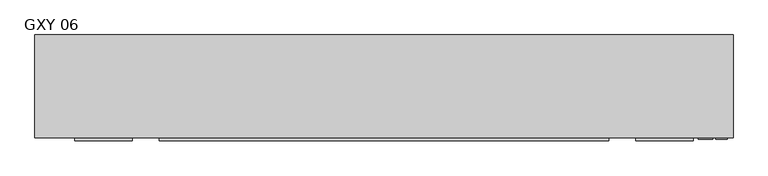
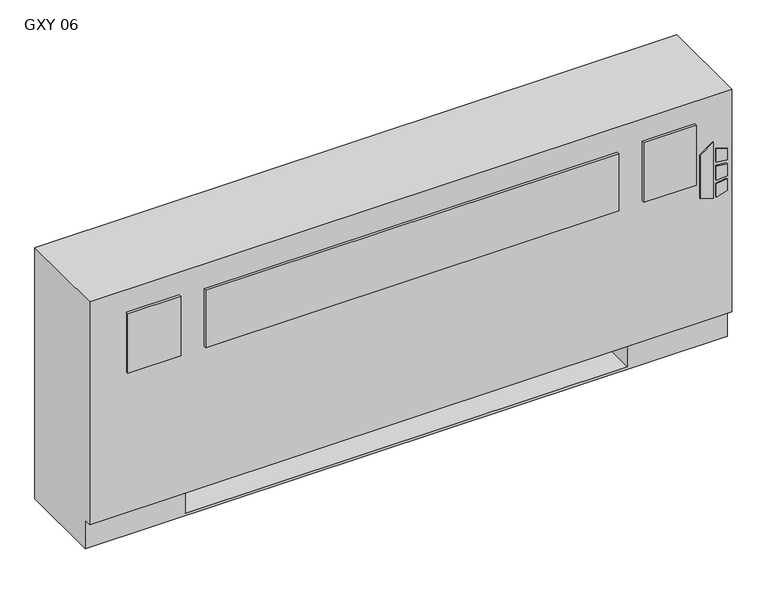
"""IFC4 building model written with IfcOpenShell, lengths in millimetres: proxy geometry, Vertical_Fan_Coil_Unit_-_GXY_-_IEC_-_2-Pipe_FS-FR_RH_2022 : GXY 06."""

from ifc_helpers import new_model, si_unit, point, frame, frame_2d, origin, place, context, project, spatial, polyline, circle_curve, trimmed, segment, composite_curve, outline, extrude, source, transform, mapped, element, save
from ifc_brep_helpers import plane_surface, revolved_surface, advanced_brep


def gxy_06_4bfbfc61(model_context):
    return source(origin(), model_context, "Body", "SolidModel", [
        extrude(outline(polyline([(391.6086829, 849.3868862), (381.6606126, 881.5602728), (523.831537, 881.5602728), (500.8095309, 849.3868862), (391.6086829, 849.3868862)])), frame((0.0, 12.7, 0.0), z_axis=(0.0, 1.0, 0.0), x_axis=(0.0, 0.0, 1.0)), (0.0, 0.0, 1.0), 3.175),
        extrude(outline(polyline([(470.6079683, 888.3186058), (467.4055757, 914.4), (496.6344168, 914.4), (504.6988318, 888.3186058), (470.6079683, 888.3186058)])), frame((0.0, 12.7, 0.0), z_axis=(0.0, 1.0, 0.0), x_axis=(0.0, 0.0, 1.0)), (0.0, 0.0, 1.0), 3.175),
        extrude(outline(polyline([(418.7444414, 914.4), (415.0789404, 888.3186058), (381.6606126, 888.3186058), (390.2948498, 914.4), (418.7444414, 914.4)])), frame((0.0, 12.7, 0.0), z_axis=(0.0, 1.0, 0.0), x_axis=(0.0, 0.0, 1.0)), (0.0, 0.0, 1.0), 3.175),
        extrude(outline(polyline([(458.0596028, 914.4), (460.3414292, 888.3186058), (424.4038806, 888.3186058), (427.1451456, 914.4), (458.0596028, 914.4)])), frame((0.0, 12.7, 0.0), z_axis=(0.0, 1.0, 0.0), x_axis=(0.0, 0.0, 1.0)), (0.0, 0.0, 1.0), 3.175),
        extrude(outline(polyline([(-406.4, 9.525), (-533.4, 9.525), (-533.4, 15.875), (-406.4, 15.875), (-406.4, 9.525)])), frame((0.0, 0.0, 431.8), z_axis=(0.0, 0.0, 1.0), x_axis=(1.0, 0.0, 0.0)), (0.0, 0.0, 1.0), 152.4),
        extrude(outline(polyline([(650.875, 9.525), (-346.075, 9.525), (-346.075, 15.875), (650.875, 15.875), (650.875, 9.525)])), frame((0.0, 0.0, 431.8), z_axis=(0.0, 0.0, 1.0), x_axis=(1.0, 0.0, 0.0)), (0.0, 0.0, 1.0), 146.05),
        extrude(outline(polyline([(838.2, 9.525), (711.2, 9.525), (711.2, 15.875), (838.2, 15.875), (838.2, 9.525)])), frame((0.0, 0.0, 431.8), z_axis=(0.0, 0.0, 1.0), x_axis=(1.0, 0.0, 0.0)), (0.0, 0.0, 1.0), 152.4),
        extrude(outline(polyline([(-501.65, 81.534), (-501.65, 223.266), (-127.0, 223.266), (-127.0, 81.534), (-501.65, 81.534)])), frame((0.0, 0.0, 327.025), z_axis=(0.0, 0.0, 1.0), x_axis=(1.0, 0.0, 0.0)), (0.0, 0.0, 1.0), 260.35),
        extrude(outline(composite_curve([segment(trimmed(circle_curve(frame_2d((78.9432, 398.5514)), 7.9375), [point((78.9432, 406.4889))], [point((78.9432, 390.6139))], False, "CARTESIAN"), True, "CONTINUOUS"), segment(trimmed(circle_curve(frame_2d((78.9432, 398.5514)), 7.9375), [point((78.9432, 390.6139))], [point((78.9432, 406.4889))], False, "CARTESIAN"), True, "CONTINUOUS")], self_intersect=False)), frame((685.8, 0.0, 0.0), z_axis=(1.0, 0.0, 0.0), x_axis=(0.0, 1.0, 0.0)), (0.0, 0.0, 1.0), 50.8),
        extrude(outline(composite_curve([segment(trimmed(circle_curve(frame_2d((155.9052, 537.3878)), 7.9375), [point((155.9052, 545.3253))], [point((155.9052, 529.4503))], False, "CARTESIAN"), True, "CONTINUOUS"), segment(trimmed(circle_curve(frame_2d((155.9052, 537.3878)), 7.9375), [point((155.9052, 529.4503))], [point((155.9052, 545.3253))], False, "CARTESIAN"), True, "CONTINUOUS")], self_intersect=False)), frame((685.8, 0.0, 0.0), z_axis=(1.0, 0.0, 0.0), x_axis=(0.0, 1.0, 0.0)), (0.0, 0.0, 1.0), 50.8),
        advanced_brep(
        [(927.1, 244.475, 641.35), (-622.3, 244.475, 641.35), (-622.3, 15.875, 641.35), (927.1, 15.875, 641.35), (-622.3, 244.475, 0.0), (927.1, 244.475, 0.0), (927.1, 34.925, 0.0), (-622.3, 34.925, 0.0), (685.8, 244.475, 73.025), (914.4, 244.475, 73.025), (914.4, 244.475, 628.65), (685.8, 244.475, 628.65), (685.8, 244.475, 418.0400565), (714.375, 244.475, 418.0400565), (714.375, 244.475, 388.4099435), (685.8, 244.475, 388.4099435), (685.8, 244.475, 290.5125), (714.375, 244.475, 290.5125), (714.375, 244.475, 261.9375), (685.8, 244.475, 261.9375), (685.8, 244.475, 119.0625), (714.375, 244.475, 119.0625), (714.375, 244.475, 90.4875), (685.8, 244.475, 90.4875), (-381.0, 244.475, 628.65), (-609.6, 244.475, 628.65), (-609.6, 244.475, 73.025), (-381.0, 244.475, 73.025), (-381.0, 244.475, 90.4875), (-409.575, 244.475, 90.4875), (-409.575, 244.475, 119.0625), (-381.0, 244.475, 119.0625), (-381.0, 244.475, 261.9375), (-409.575, 244.475, 261.9375), (-409.575, 244.475, 290.5125), (-381.0, 244.475, 290.5125), (-381.0, 244.475, 388.4099435), (-409.575, 244.475, 388.4099435), (-409.575, 244.475, 418.0400565), (-381.0, 244.475, 418.0400565), (704.0626, 244.475, 104.775), (692.9374, 244.475, 104.775), (704.0626, 244.475, 403.225), (692.9374, 244.475, 403.225), (704.0626, 244.475, 276.225), (692.9374, 244.475, 276.225), (-388.1374, 244.475, 104.775), (-399.2626, 244.475, 104.775), (-388.1374, 244.475, 276.225), (-399.2626, 244.475, 276.225), (-388.1374, 244.475, 403.225), (-399.2626, 244.475, 403.225), (-622.3, 34.925, 73.025), (-622.3, 15.875, 73.025), (927.1, 15.875, 73.025), (927.1, 34.925, 73.025), (-381.0, 34.925, 73.025), (-381.0, 219.075, 73.025), (685.8, 219.075, 73.025), (685.8, 34.925, 73.025), (685.8, 34.925, 6.35), (-381.0, 34.925, 6.35), (685.8, 41.275, 628.65), (914.4, 41.275, 628.65), (914.4, 41.275, 73.025), (685.8, 41.275, 73.025), (-381.0, 41.275, 628.65), (-381.0, 41.275, 73.025), (-609.6, 41.275, 73.025), (-609.6, 41.275, 628.65), (685.8, 219.075, 73.025), (685.8, 238.125, 90.4875), (685.8, 238.125, 119.0625), (685.8, 238.125, 261.9375), (685.8, 238.125, 290.5125), (685.8, 238.125, 388.4099435), (685.8, 238.125, 418.0400565), (-381.0, 219.075, 73.025), (-381.0, 238.125, 418.0400565), (-381.0, 238.125, 388.4099435), (-381.0, 238.125, 290.5125), (-381.0, 238.125, 261.9375), (-381.0, 238.125, 119.0625), (-381.0, 238.125, 90.4875), (-381.0, 219.075, 6.35), (685.8, 219.075, 6.35), (714.375, 238.125, 90.4875), (714.375, 238.125, 119.0625), (692.9374, 238.125, 104.775), (704.0626, 238.125, 104.775), (714.375, 238.125, 261.9375), (714.375, 238.125, 290.5125), (692.9374, 238.125, 276.225), (704.0626, 238.125, 276.225), (714.375, 238.125, 388.4099435), (714.375, 238.125, 418.0400565), (692.9374, 238.125, 403.225), (704.0626, 238.125, 403.225), (-409.575, 238.125, 119.0625), (-409.575, 238.125, 90.4875), (-399.2626, 238.125, 104.775), (-388.1374, 238.125, 104.775), (-409.575, 238.125, 290.5125), (-409.575, 238.125, 261.9375), (-399.2626, 238.125, 276.225), (-388.1374, 238.125, 276.225), (-409.575, 238.125, 418.0400565), (-409.575, 238.125, 388.4099435), (-399.2626, 238.125, 403.225), (-388.1374, 238.125, 403.225)],
        [
            (0, 1),
            (1, 2),
            (2, 3),
            (3, 0),
            (4, 5),
            (5, 6),
            (6, 7),
            (7, 4),
            (0, 5),
            (4, 1),
            (8, 9),
            (9, 10),
            (10, 11),
            (11, 12),
            (12, 13),
            (13, 14),
            (14, 15),
            (15, 16),
            (16, 17),
            (17, 18),
            (18, 19),
            (19, 20),
            (20, 21),
            (21, 22),
            (22, 23),
            (23, 8),
            (24, 25),
            (25, 26),
            (26, 27),
            (27, 28),
            (28, 29),
            (29, 30),
            (30, 31),
            (31, 32),
            (32, 33),
            (33, 34),
            (34, 35),
            (35, 36),
            (36, 37),
            (37, 38),
            (38, 39),
            (39, 24),
            (40, 41, circle_curve(frame((698.5, 244.475, 104.775), z_axis=(0.0, -1.0, 0.0), x_axis=(-1.0, 0.0, 0.0)), 5.5626)),
            (41, 40, circle_curve(frame((698.5, 244.475, 104.775), z_axis=(0.0, -1.0, 0.0), x_axis=(-1.0, 0.0, 0.0)), 5.5626)),
            (42, 43, circle_curve(frame((698.5, 244.475, 403.225), z_axis=(0.0, -1.0, 0.0), x_axis=(-1.0, 0.0, 0.0)), 5.5626)),
            (43, 42, circle_curve(frame((698.5, 244.475, 403.225), z_axis=(0.0, -1.0, 0.0), x_axis=(-1.0, 0.0, 0.0)), 5.5626)),
            (44, 45, circle_curve(frame((698.5, 244.475, 276.225), z_axis=(0.0, -1.0, 0.0), x_axis=(-1.0, 0.0, 0.0)), 5.5626)),
            (45, 44, circle_curve(frame((698.5, 244.475, 276.225), z_axis=(0.0, -1.0, 0.0), x_axis=(-1.0, 0.0, 0.0)), 5.5626)),
            (46, 47, circle_curve(frame((-393.7, 244.475, 104.775), z_axis=(0.0, -1.0, 0.0), x_axis=(-1.0, 0.0, 0.0)), 5.5626)),
            (47, 46, circle_curve(frame((-393.7, 244.475, 104.775), z_axis=(0.0, -1.0, 0.0), x_axis=(-1.0, 0.0, 0.0)), 5.5626)),
            (48, 49, circle_curve(frame((-393.7, 244.475, 276.225), z_axis=(0.0, -1.0, 0.0), x_axis=(-1.0, 0.0, 0.0)), 5.5626)),
            (49, 48, circle_curve(frame((-393.7, 244.475, 276.225), z_axis=(0.0, -1.0, 0.0), x_axis=(-1.0, 0.0, 0.0)), 5.5626)),
            (50, 51, circle_curve(frame((-393.7, 244.475, 403.225), z_axis=(0.0, -1.0, 0.0), x_axis=(-1.0, 0.0, 0.0)), 5.5626)),
            (51, 50, circle_curve(frame((-393.7, 244.475, 403.225), z_axis=(0.0, -1.0, 0.0), x_axis=(-1.0, 0.0, 0.0)), 5.5626)),
            (7, 52),
            (52, 53),
            (53, 2),
            (53, 54),
            (54, 3),
            (54, 55),
            (55, 6),
            (52, 56),
            (56, 57),
            (57, 58),
            (58, 59),
            (59, 55),
            (59, 60),
            (60, 61),
            (61, 56),
            (62, 63),
            (63, 64),
            (64, 65),
            (65, 62),
            (66, 67),
            (67, 68),
            (68, 69),
            (69, 66),
            (65, 70),
            (70, 8),
            (23, 71),
            (71, 72),
            (72, 20),
            (19, 73),
            (73, 74),
            (74, 16),
            (15, 75),
            (75, 76),
            (76, 12),
            (11, 62),
            (64, 9),
            (63, 10),
            (69, 25),
            (24, 66),
            (68, 26),
            (67, 77),
            (77, 27),
            (39, 78),
            (78, 79),
            (79, 36),
            (35, 80),
            (80, 81),
            (81, 32),
            (31, 82),
            (82, 83),
            (83, 28),
            (57, 84),
            (84, 85),
            (85, 58),
            (85, 60),
            (84, 61),
            (71, 86),
            (86, 87),
            (87, 72),
            (88, 89, circle_curve(frame((698.5, 238.125, 104.775), z_axis=(0.0, 1.0, 0.0), x_axis=(-1.0, 0.0, 0.0)), 5.5626)),
            (89, 88, circle_curve(frame((698.5, 238.125, 104.775), z_axis=(0.0, 1.0, 0.0), x_axis=(-1.0, 0.0, 0.0)), 5.5626)),
            (73, 90),
            (90, 91),
            (91, 74),
            (92, 93, circle_curve(frame((698.5, 238.125, 276.225), z_axis=(0.0, 1.0, 0.0), x_axis=(-1.0, 0.0, 0.0)), 5.5626)),
            (93, 92, circle_curve(frame((698.5, 238.125, 276.225), z_axis=(0.0, 1.0, 0.0), x_axis=(-1.0, 0.0, 0.0)), 5.5626)),
            (75, 94),
            (94, 95),
            (95, 76),
            (96, 97, circle_curve(frame((698.5, 238.125, 403.225), z_axis=(0.0, 1.0, 0.0), x_axis=(-1.0, 0.0, 0.0)), 5.5626)),
            (97, 96, circle_curve(frame((698.5, 238.125, 403.225), z_axis=(0.0, 1.0, 0.0), x_axis=(-1.0, 0.0, 0.0)), 5.5626)),
            (98, 99),
            (99, 83),
            (82, 98),
            (100, 101, circle_curve(frame((-393.7, 238.125, 104.775), z_axis=(0.0, 1.0, 0.0), x_axis=(-1.0, 0.0, 0.0)), 5.5626)),
            (101, 100, circle_curve(frame((-393.7, 238.125, 104.775), z_axis=(0.0, 1.0, 0.0), x_axis=(-1.0, 0.0, 0.0)), 5.5626)),
            (102, 103),
            (103, 81),
            (80, 102),
            (104, 105, circle_curve(frame((-393.7, 238.125, 276.225), z_axis=(0.0, 1.0, 0.0), x_axis=(-1.0, 0.0, 0.0)), 5.5626)),
            (105, 104, circle_curve(frame((-393.7, 238.125, 276.225), z_axis=(0.0, 1.0, 0.0), x_axis=(-1.0, 0.0, 0.0)), 5.5626)),
            (106, 107),
            (107, 79),
            (78, 106),
            (108, 109, circle_curve(frame((-393.7, 238.125, 403.225), z_axis=(0.0, 1.0, 0.0), x_axis=(-1.0, 0.0, 0.0)), 5.5626)),
            (109, 108, circle_curve(frame((-393.7, 238.125, 403.225), z_axis=(0.0, 1.0, 0.0), x_axis=(-1.0, 0.0, 0.0)), 5.5626)),
            (87, 21),
            (86, 22),
            (91, 17),
            (90, 18),
            (95, 13),
            (94, 14),
            (30, 98),
            (99, 29),
            (34, 102),
            (103, 33),
            (38, 106),
            (107, 37),
            (88, 41),
            (40, 89),
            (96, 43),
            (42, 97),
            (92, 45),
            (44, 93),
            (100, 47),
            (46, 101),
            (104, 49),
            (48, 105),
            (108, 51),
            (50, 109),
        ],
        [
            plane_surface(frame((-622.3, 244.475, 641.35), z_axis=(0.0, 0.0, 1.0), x_axis=(-1.0, 0.0, 0.0))),
            plane_surface(frame((-622.3, 244.475, 0.0), z_axis=(0.0, 0.0, -1.0), x_axis=(1.0, 0.0, 0.0))),
            plane_surface(frame((927.1, 244.475, 641.35), z_axis=(0.0, 1.0, 0.0), x_axis=(0.0, 0.0, -1.0))),
            plane_surface(frame((-622.3, 244.475, 641.35), z_axis=(-1.0, 0.0, 0.0), x_axis=(0.0, 0.0, -1.0))),
            plane_surface(frame((-622.3, 15.875, 641.35), z_axis=(0.0, -1.0, 0.0), x_axis=(0.0, 0.0, -1.0))),
            plane_surface(frame((927.1, 15.875, 641.35), z_axis=(1.0, 0.0, 0.0), x_axis=(0.0, 0.0, -1.0))),
            plane_surface(frame((-622.3, 15.875, 73.025), z_axis=(0.0, 0.0, -1.0), x_axis=(1.0, 0.0, 0.0))),
            plane_surface(frame((-622.3, 34.925, 73.025), z_axis=(0.0, -1.0, 0.0), x_axis=(1.0, 0.0, 0.0))),
            plane_surface(frame((685.8, 41.275, 628.65), z_axis=(0.0, 1.0, 0.0), x_axis=(0.0, 0.0, -1.0))),
            plane_surface(frame((685.8, 41.275, 628.65), z_axis=(1.0, 0.0, 0.0), x_axis=(0.0, 1.0, 0.0))),
            plane_surface(frame((685.8, 41.275, 73.025), z_axis=(0.0, 0.0, 1.0), x_axis=(0.0, 1.0, 0.0))),
            plane_surface(frame((914.4, 41.275, 73.025), z_axis=(-1.0, 0.0, 0.0), x_axis=(0.0, 1.0, 0.0))),
            plane_surface(frame((914.4, 41.275, 628.65), z_axis=(0.0, 0.0, -1.0), x_axis=(0.0, 1.0, 0.0))),
            plane_surface(frame((-381.0, 41.275, 628.65), z_axis=(0.0, 0.0, -1.0), x_axis=(0.0, 1.0, 0.0))),
            plane_surface(frame((-609.6, 41.275, 628.65), z_axis=(1.0, 0.0, 0.0), x_axis=(0.0, 1.0, 0.0))),
            plane_surface(frame((-609.6, 41.275, 73.025), z_axis=(0.0, 0.0, 1.0), x_axis=(0.0, 1.0, 0.0))),
            plane_surface(frame((-381.0, 41.275, 73.025), z_axis=(-1.0, 0.0, 0.0), x_axis=(0.0, 1.0, 0.0))),
            plane_surface(frame((685.8, 219.075, 73.025), z_axis=(0.0, -1.0, 0.0), x_axis=(0.0, 0.0, -1.0))),
            plane_surface(frame((685.8, 219.075, 73.025), z_axis=(-1.0, 0.0, 0.0), x_axis=(0.0, -1.0, 0.0))),
            plane_surface(frame((685.8, 219.075, 6.35), z_axis=(0.0, 0.0, 1.0), x_axis=(0.0, -1.0, 0.0))),
            plane_surface(frame((-381.0, 219.075, 6.35), z_axis=(1.0, 0.0, 0.0), x_axis=(0.0, -1.0, 0.0))),
            plane_surface(frame((714.375, 238.125, 119.0625), z_axis=(0.0, -1.0, 0.0), x_axis=(-1.0, 0.0, 0.0))),
            plane_surface(frame((685.8, 244.475, 119.0625), z_axis=(0.0, 0.0, 1.0), x_axis=(0.0, -1.0, 0.0))),
            plane_surface(frame((714.375, 244.475, 119.0625), z_axis=(1.0, 0.0, 0.0), x_axis=(0.0, -1.0, 0.0))),
            plane_surface(frame((714.375, 244.475, 90.4875), z_axis=(0.0, 0.0, -1.0), x_axis=(0.0, -1.0, 0.0))),
            plane_surface(frame((685.8, 244.475, 290.5125), z_axis=(0.0, 0.0, 1.0), x_axis=(0.0, -1.0, 0.0))),
            plane_surface(frame((714.375, 244.475, 290.5125), z_axis=(1.0, 0.0, 0.0), x_axis=(0.0, -1.0, 0.0))),
            plane_surface(frame((714.375, 244.475, 261.9375), z_axis=(0.0, 0.0, -1.0), x_axis=(0.0, -1.0, 0.0))),
            plane_surface(frame((685.8, 244.475, 418.0400565), z_axis=(0.0, 0.0, 1.0), x_axis=(0.0, -1.0, 0.0))),
            plane_surface(frame((714.375, 244.475, 418.0400565), z_axis=(1.0, 0.0, 0.0), x_axis=(0.0, -1.0, 0.0))),
            plane_surface(frame((714.375, 244.475, 388.4099435), z_axis=(0.0, 0.0, -1.0), x_axis=(0.0, -1.0, 0.0))),
            plane_surface(frame((-409.575, 244.475, 119.0625), z_axis=(0.0, 0.0, 1.0), x_axis=(0.0, -1.0, 0.0))),
            plane_surface(frame((-381.0, 244.475, 90.4875), z_axis=(0.0, 0.0, -1.0), x_axis=(0.0, -1.0, 0.0))),
            plane_surface(frame((-409.575, 244.475, 90.4875), z_axis=(-1.0, 0.0, 0.0), x_axis=(0.0, -1.0, 0.0))),
            plane_surface(frame((-409.575, 244.475, 290.5125), z_axis=(0.0, 0.0, 1.0), x_axis=(0.0, -1.0, 0.0))),
            plane_surface(frame((-381.0, 244.475, 261.9375), z_axis=(0.0, 0.0, -1.0), x_axis=(0.0, -1.0, 0.0))),
            plane_surface(frame((-409.575, 244.475, 261.9375), z_axis=(-1.0, 0.0, 0.0), x_axis=(0.0, -1.0, 0.0))),
            plane_surface(frame((-409.575, 244.475, 418.0400565), z_axis=(0.0, 0.0, 1.0), x_axis=(0.0, -1.0, 0.0))),
            plane_surface(frame((-381.0, 244.475, 388.4099435), z_axis=(0.0, 0.0, -1.0), x_axis=(0.0, -1.0, 0.0))),
            plane_surface(frame((-409.575, 244.475, 388.4099435), z_axis=(-1.0, 0.0, 0.0), x_axis=(0.0, -1.0, 0.0))),
            revolved_surface(polyline([(692.9374, 238.125, 104.775), (692.9374, 244.475, 104.775)]), (698.5, 244.475, 104.775), (0.0, -1.0, 0.0)),
            revolved_surface(polyline([(692.9374, 238.125, 403.225), (692.9374, 244.475, 403.225)]), (698.5, 244.475, 403.225), (0.0, -1.0, 0.0)),
            revolved_surface(polyline([(692.9374, 238.125, 276.225), (692.9374, 244.475, 276.225)]), (698.5, 244.475, 276.225), (0.0, -1.0, 0.0)),
            revolved_surface(polyline([(-399.26259999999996, 238.125, 104.775), (-399.26259999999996, 244.475, 104.775)]), (-393.7, 244.475, 104.775), (0.0, -1.0, 0.0)),
            revolved_surface(polyline([(-399.26259999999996, 238.125, 276.225), (-399.26259999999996, 244.475, 276.225)]), (-393.7, 244.475, 276.225), (0.0, -1.0, 0.0)),
            revolved_surface(polyline([(-399.26259999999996, 238.125, 403.225), (-399.26259999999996, 244.475, 403.225)]), (-393.7, 244.475, 403.225), (0.0, -1.0, 0.0)),
        ],
        [
            (0, [[1, 2, 3, 4]]),
            (1, [[5, 6, 7, 8]]),
            (2, [[-1, 9, -5, 10], [11, 12, 13, 14, 15, 16, 17, 18, 19, 20, 21, 22, 23, 24, 25, 26], [27, 28, 29, 30, 31, 32, 33, 34, 35, 36, 37, 38, 39, 40, 41, 42], [43, 44], [45, 46], [47, 48], [49, 50], [51, 52], [53, 54]]),
            (3, [[-2, -10, -8, 55, 56, 57]]),
            (4, [[-3, -57, 58, 59]]),
            (5, [[-4, -59, 60, 61, -6, -9]]),
            (6, [[-56, 62, 63, 64, 65, 66, -60, -58]]),
            (7, [[-7, -61, -66, 67, 68, 69, -62, -55]]),
            (8, [[70, 71, 72, 73]]),
            (8, [[74, 75, 76, 77]]),
            (9, [[-73, 78, 79, -26, 80, 81, 82, -22, 83, 84, 85, -18, 86, 87, 88, -14, 89]]),
            (10, [[-72, 90, -11, -79, -78]]),
            (11, [[-71, 91, -12, -90]]),
            (12, [[-70, -89, -13, -91]]),
            (13, [[-77, 92, -27, 93]]),
            (14, [[-76, 94, -28, -92]]),
            (15, [[-75, 95, 96, -29, -94]]),
            (16, [[-74, -93, -42, 97, 98, 99, -38, 100, 101, 102, -34, 103, 104, 105, -30, -96, -95]]),
            (17, [[-64, 106, 107, 108]]),
            (18, [[-108, 109, -67, -65]]),
            (19, [[-107, 110, -68, -109]]),
            (20, [[-106, -63, -69, -110]]),
            (21, [[111, 112, 113, -81], [114, 115]]),
            (21, [[116, 117, 118, -84], [119, 120]]),
            (21, [[121, 122, 123, -87], [124, 125]]),
            (21, [[126, 127, -104, 128], [129, 130]]),
            (21, [[131, 132, -101, 133], [134, 135]]),
            (21, [[136, 137, -98, 138], [139, 140]]),
            (22, [[-113, 141, -23, -82]]),
            (23, [[-112, 142, -24, -141]]),
            (24, [[-111, -80, -25, -142]]),
            (25, [[-118, 143, -19, -85]]),
            (26, [[-117, 144, -20, -143]]),
            (27, [[-116, -83, -21, -144]]),
            (28, [[-123, 145, -15, -88]]),
            (29, [[-122, 146, -16, -145]]),
            (30, [[-121, -86, -17, -146]]),
            (31, [[-128, -103, -33, 147]]),
            (32, [[-127, 148, -31, -105]]),
            (33, [[-126, -147, -32, -148]]),
            (34, [[-133, -100, -37, 149]]),
            (35, [[-132, 150, -35, -102]]),
            (36, [[-131, -149, -36, -150]]),
            (37, [[-138, -97, -41, 151]]),
            (38, [[-137, 152, -39, -99]]),
            (39, [[-136, -151, -40, -152]]),
            (40, [[153, -43, 154, -114]]),
            (40, [[-153, -115, -154, -44]]),
            (41, [[155, -45, 156, -124]]),
            (41, [[-155, -125, -156, -46]]),
            (42, [[157, -47, 158, -119]]),
            (42, [[-157, -120, -158, -48]]),
            (43, [[159, -49, 160, -129]]),
            (43, [[-159, -130, -160, -50]]),
            (44, [[161, -51, 162, -134]]),
            (44, [[-161, -135, -162, -52]]),
            (45, [[163, -53, 164, -139]]),
            (45, [[-163, -140, -164, -54]]),
        ],
    ),
    ])


if __name__ == "__main__":
    model = new_model("IFC4")
    model_context = context("Model", 3, world=origin())
    ifc_project = project(units=[si_unit("LENGTHUNIT", "METRE", prefix="MILLI")], contexts=[model_context])
    site = spatial("IfcSite", under=ifc_project)
    building = spatial("IfcBuilding", under=site)
    placement = place(None, origin())
    gxy_06_shape = gxy_06_4bfbfc61(model_context)
    element("IfcBuildingElementProxy", 1, Name="Vertical_Fan_Coil_Unit_-_GXY_-_IEC_-_2-Pipe_FS-FR_RH_2022 : GXY 06", ObjectType="Vertical_Fan_Coil_Unit_-_GXY_-_IEC_-_2-Pipe_FS-FR_RH_2022 : GXY 06", at=placement, inside=building, context=model_context, shape_type="MappedRepresentation", body=[
        mapped(gxy_06_shape, transform((0.0, 0.0, 0.0), x_axis=(1.0, 0.0, 0.0), y_axis=(0.0, 1.0, 0.0), z_axis=(0.0, 0.0, 1.0))),
    ])
    save(model, "model.ifc")
